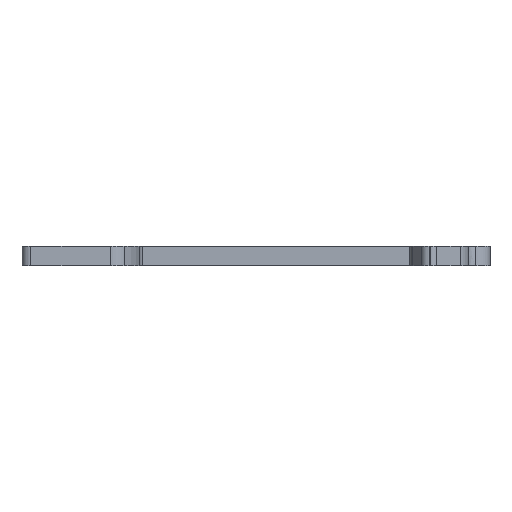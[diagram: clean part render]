
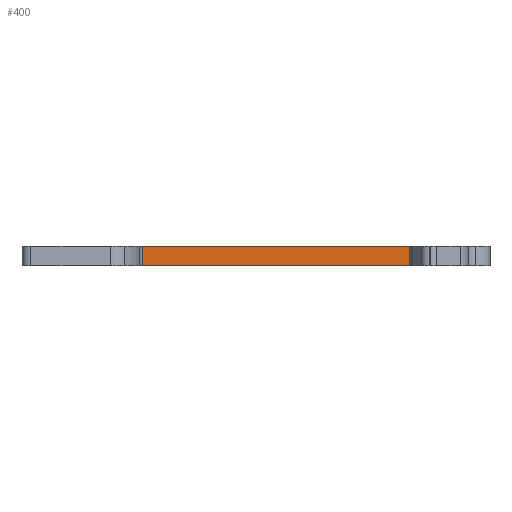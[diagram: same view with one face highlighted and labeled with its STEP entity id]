
A CAD part, front view. The second image highlights one B-rep face of the part: STEP entity #400.
In plain terms, the highlighted planar face has unit normal (0, -1, 0).
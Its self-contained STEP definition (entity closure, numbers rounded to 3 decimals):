
#10=CARTESIAN_POINT('',(-15.522,0.,0.));
#20=DIRECTION('',(-0.,-1.,-0.));
#30=DIRECTION('',(-1.,0.,0.));
#40=AXIS2_PLACEMENT_3D('',#10,#20,#30);
#50=PLANE('',#40);
#60=CARTESIAN_POINT('',(0.,-0.,0.7));
#70=DIRECTION('',(1.,0.,0.));
#80=VECTOR('',#70,1.);
#90=LINE('',#60,#80);
#100=CARTESIAN_POINT('',(-15.653,0.,0.7));
#110=VERTEX_POINT('',#100);
#120=CARTESIAN_POINT('',(17.5,0.,0.7));
#130=VERTEX_POINT('',#120);
#140=EDGE_CURVE('',#110,#130,#90,.T.);
#150=ORIENTED_EDGE('',*,*,#140,.F.);
#160=CARTESIAN_POINT('',(17.5,0.,0.));
#170=DIRECTION('',(0.,0.,1.));
#180=VECTOR('',#170,1.);
#190=LINE('',#160,#180);
#200=CARTESIAN_POINT('',(17.5,0.,-1.5));
#210=VERTEX_POINT('',#200);
#220=EDGE_CURVE('',#210,#130,#190,.T.);
#230=ORIENTED_EDGE('',*,*,#220,.T.);
#240=CARTESIAN_POINT('',(0.,0.,-1.5));
#250=DIRECTION('',(1.,0.,0.));
#260=VECTOR('',#250,1.);
#270=LINE('',#240,#260);
#280=CARTESIAN_POINT('',(-15.653,0.,-1.5));
#290=VERTEX_POINT('',#280);
#300=EDGE_CURVE('',#290,#210,#270,.T.);
#310=ORIENTED_EDGE('',*,*,#300,.T.);
#320=CARTESIAN_POINT('',(-15.653,0.,0.));
#330=DIRECTION('',(0.,0.,1.));
#340=VECTOR('',#330,1.);
#350=LINE('',#320,#340);
#360=EDGE_CURVE('',#290,#110,#350,.T.);
#370=ORIENTED_EDGE('',*,*,#360,.F.);
#380=EDGE_LOOP('',(#370,#310,#230,#150));
#390=FACE_OUTER_BOUND('',#380,.T.);
#400=ADVANCED_FACE('',(#390),#50,.T.);
